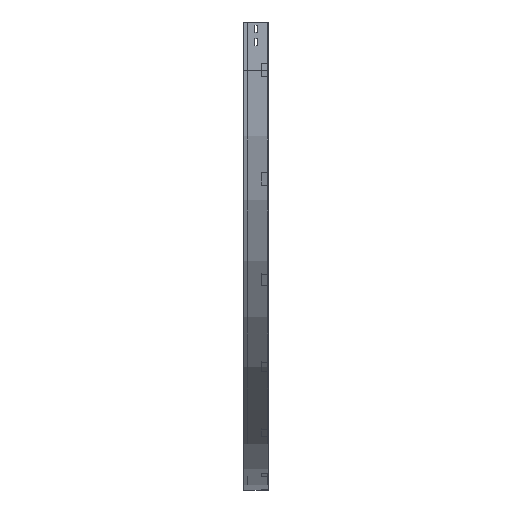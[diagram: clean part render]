
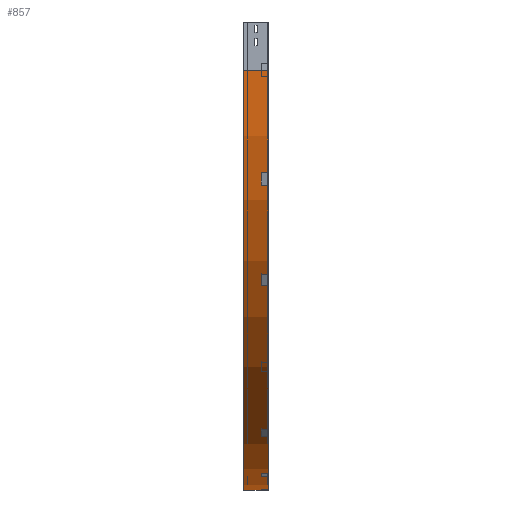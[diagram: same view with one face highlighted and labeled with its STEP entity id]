
A CAD part, left-side view. The second image highlights one B-rep face of the part: STEP entity #857.
In plain terms, the highlighted cylindrical face has radius 1300 mm (diameter 2600 mm), a partial arc.
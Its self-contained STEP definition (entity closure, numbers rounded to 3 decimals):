
#87 = CIRCLE ( 'NONE', #3669, 1300. ) ;
#173 = DIRECTION ( 'NONE',  ( 0., 0., -1. ) ) ;
#367 = EDGE_CURVE ( 'NONE', #481, #3192, #2937, .T. ) ;
#375 = CARTESIAN_POINT ( 'NONE',  ( 0., 0., -150. ) ) ;
#407 = EDGE_CURVE ( 'NONE', #1356, #3192, #3086, .T. ) ;
#427 = AXIS2_PLACEMENT_3D ( 'NONE', #2587, #3180, #173 ) ;
#451 = DIRECTION ( 'NONE',  ( 0., -1., 0. ) ) ;
#481 = VERTEX_POINT ( 'NONE', #2228 ) ;
#600 = ORIENTED_EDGE ( 'NONE', *, *, #407, .T. ) ;
#721 = EDGE_CURVE ( 'NONE', #2408, #481, #3402, .T. ) ;
#857 = ADVANCED_FACE ( 'NONE', ( #3740 ), #3443, .T. ) ;
#946 = DIRECTION ( 'NONE',  ( 0., -1., 0. ) ) ;
#1355 = VECTOR ( 'NONE', #3102, 1000. ) ;
#1356 = VERTEX_POINT ( 'NONE', #3284 ) ;
#1505 = ORIENTED_EDGE ( 'NONE', *, *, #721, .F. ) ;
#1636 = CARTESIAN_POINT ( 'NONE',  ( 1300., 0., -1450. ) ) ;
#1925 = DIRECTION ( 'NONE',  ( -1., 0., 0. ) ) ;
#2057 = VECTOR ( 'NONE', #946, 1000. ) ;
#2187 = DIRECTION ( 'NONE',  ( -1., 0., 0. ) ) ;
#2228 = CARTESIAN_POINT ( 'NONE',  ( 0., 0., -150. ) ) ;
#2408 = VERTEX_POINT ( 'NONE', #3600 ) ;
#2478 = ORIENTED_EDGE ( 'NONE', *, *, #367, .F. ) ;
#2483 = EDGE_LOOP ( 'NONE', ( #2478, #1505, #3473, #600 ) ) ;
#2493 = DIRECTION ( 'NONE',  ( 0., -1., 0. ) ) ;
#2516 = EDGE_CURVE ( 'NONE', #2408, #1356, #87, .T. ) ;
#2587 = CARTESIAN_POINT ( 'NONE',  ( 1300., 0., -150. ) ) ;
#2850 = CARTESIAN_POINT ( 'NONE',  ( 1300., 75., -150. ) ) ;
#2937 = CIRCLE ( 'NONE', #3693, 1300. ) ;
#3086 = LINE ( 'NONE', #1636, #2057 ) ;
#3102 = DIRECTION ( 'NONE',  ( 0., -1., 0. ) ) ;
#3107 = CARTESIAN_POINT ( 'NONE',  ( 1300., 0., -150. ) ) ;
#3180 = DIRECTION ( 'NONE',  ( 0., -1., 0. ) ) ;
#3192 = VERTEX_POINT ( 'NONE', #3293 ) ;
#3284 = CARTESIAN_POINT ( 'NONE',  ( 1300., 75., -1450. ) ) ;
#3293 = CARTESIAN_POINT ( 'NONE',  ( 1300., 0., -1450. ) ) ;
#3402 = LINE ( 'NONE', #375, #1355 ) ;
#3443 = CYLINDRICAL_SURFACE ( 'NONE', #427, 1300. ) ;
#3473 = ORIENTED_EDGE ( 'NONE', *, *, #2516, .T. ) ;
#3600 = CARTESIAN_POINT ( 'NONE',  ( 0., 75., -150. ) ) ;
#3669 = AXIS2_PLACEMENT_3D ( 'NONE', #2850, #451, #1925 ) ;
#3693 = AXIS2_PLACEMENT_3D ( 'NONE', #3107, #2493, #2187 ) ;
#3740 = FACE_OUTER_BOUND ( 'NONE', #2483, .T. ) ;
